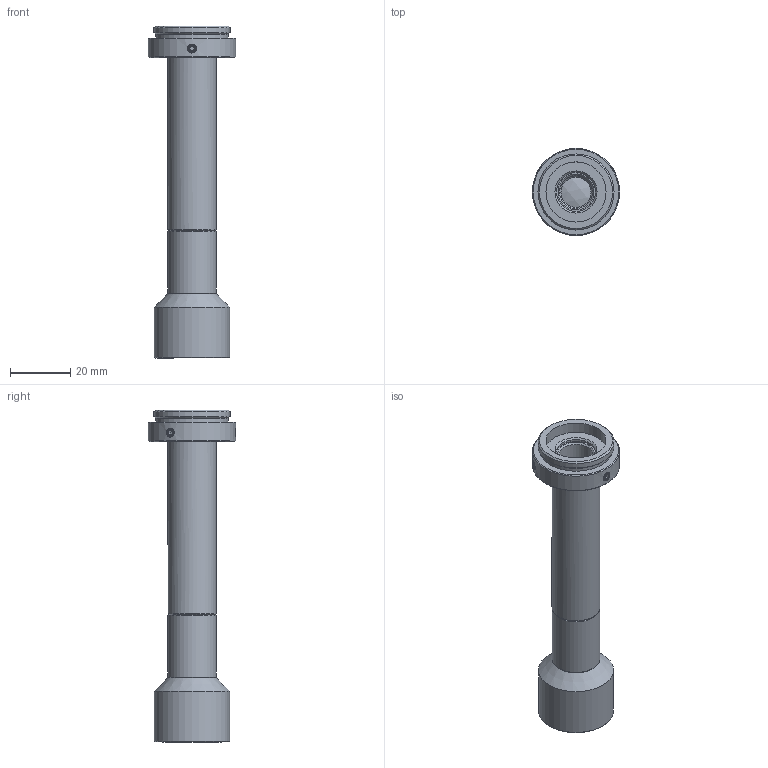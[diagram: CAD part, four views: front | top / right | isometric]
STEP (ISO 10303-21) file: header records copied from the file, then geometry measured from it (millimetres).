
FILE_DESCRIPTION(('STEP AP214'),'1');
FILE_NAME('RTK-3-M65.stp','2026-07-31T08:29:33',(' '),(' '),'Spatial InterOp 3D',' ',' ');
FILE_SCHEMA(('AUTOMOTIVE_DESIGN { 1 0 10303 214 1 1 1 1 }'));
Length unit declared in the file: metre
Products named in the file (2): RTK-3-M65; Component1
Assembly tree (1 placements, depth 2):
  RTK-3-M65
    Component1
Bounding box: 29 x 29 x 110.45 mm (x, y, z)
Volume: 17223.1 mm3; surface area: 13856.2 mm2
Topology: 1 solids, 1 shells, 131 faces, 296 edges, 195 vertices
Faces by surface type: plane 54, cone 46, cylinder 26, bspline 3, sphere 2
Full cylindrical faces by diameter (mm): 10 x1, 11 x1, 12.7 x1, 13 x2, 13.4 x1, 13.5 x1, 14 x1, 14.2 x1, 14.4 x1, 16 x4, 17.5 x2, 18 x1, 18.5 x1, 20 x1, 21 x2, 21.8 x1, 24.12 x1, 25 x1, 25.32 x1, 29 x1
Entity records: 4702 total; most frequent: CARTESIAN_POINT 974, DIRECTION 556, ORIENTED_EDGE 442, AXIS2_PLACEMENT_3D 232, EDGE_CURVE 221, EDGE_LOOP 214, VERTEX_POINT 175, FACE_OUTER_BOUND 160
